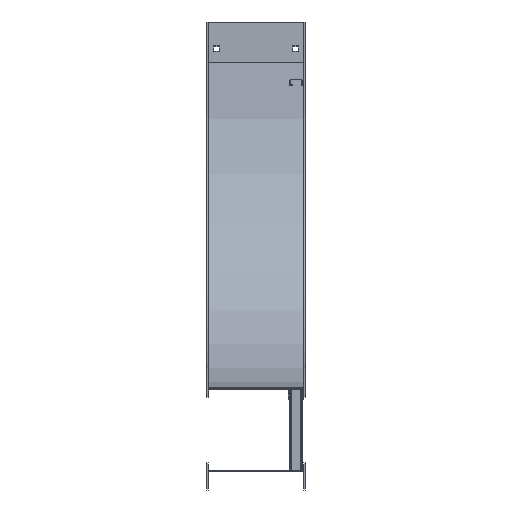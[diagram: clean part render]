
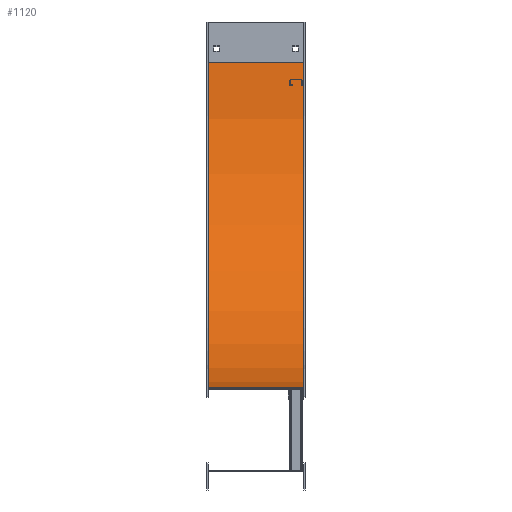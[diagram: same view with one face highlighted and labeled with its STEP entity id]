
A CAD part, left-side view. The second image highlights one B-rep face of the part: STEP entity #1120.
In plain terms, the highlighted cylindrical face has radius 608.457 mm (diameter 1216.91 mm), a partial arc.
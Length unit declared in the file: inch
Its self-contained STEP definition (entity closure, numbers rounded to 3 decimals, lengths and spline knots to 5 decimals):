
#157=CARTESIAN_POINT('',(7.13,-24.,3.));
#158=DIRECTION('',(1.,0.,0.));
#159=DIRECTION('',(0.,1.,0.));
#160=AXIS2_PLACEMENT_3D('',#157,#158,#159);
#350=DIRECTION('',(1.,0.,0.));
#351=VECTOR('',#350,7.02);
#352=CARTESIAN_POINT('',(0.11,-24.,26.955));
#353=LINE('',#352,#351);
#390=DIRECTION('',(1.,0.,0.));
#391=VECTOR('',#390,7.02);
#392=CARTESIAN_POINT('',(0.11,-0.045,3.));
#393=LINE('',#392,#391);
#394=CARTESIAN_POINT('',(0.11,-24.,3.));
#395=DIRECTION('',(1.,0.,0.));
#396=DIRECTION('',(0.,1.,0.));
#397=AXIS2_PLACEMENT_3D('',#394,#395,#396);
#521=CARTESIAN_POINT('',(0.11,-0.045,3.));
#522=CARTESIAN_POINT('',(7.13,-0.045,3.));
#523=VERTEX_POINT('',#521);
#524=VERTEX_POINT('',#522);
#545=CARTESIAN_POINT('',(0.11,-24.,26.955));
#546=CARTESIAN_POINT('',(7.13,-24.,26.955));
#547=VERTEX_POINT('',#545);
#548=VERTEX_POINT('',#546);
#1109=CARTESIAN_POINT('',(-1.,-24.,3.));
#1110=DIRECTION('',(1.,0.,0.));
#1111=DIRECTION('',(0.,-1.,0.));
#1112=AXIS2_PLACEMENT_3D('',#1109,#1110,#1111);
#1113=CYLINDRICAL_SURFACE('',#1112,23.955);
#1114=ORIENTED_EDGE('',*,*,#894,.F.);
#1115=ORIENTED_EDGE('',*,*,#935,.T.);
#1116=ORIENTED_EDGE('',*,*,#1082,.T.);
#1117=ORIENTED_EDGE('',*,*,#872,.F.);
#1118=EDGE_LOOP('',(#1114,#1115,#1116,#1117));
#1119=FACE_OUTER_BOUND('',#1118,.F.);
#1120=ADVANCED_FACE('',(#1119),#1113,.F.);
#161=CIRCLE('',#160,23.955);
#398=CIRCLE('',#397,23.955);
#872=EDGE_CURVE('',#524,#548,#161,.T.);
#894=EDGE_CURVE('',#523,#524,#393,.T.);
#935=EDGE_CURVE('',#523,#547,#398,.T.);
#1082=EDGE_CURVE('',#547,#548,#353,.T.);
